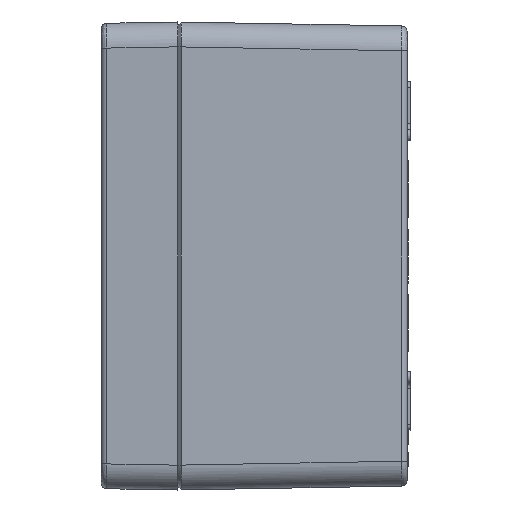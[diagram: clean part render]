
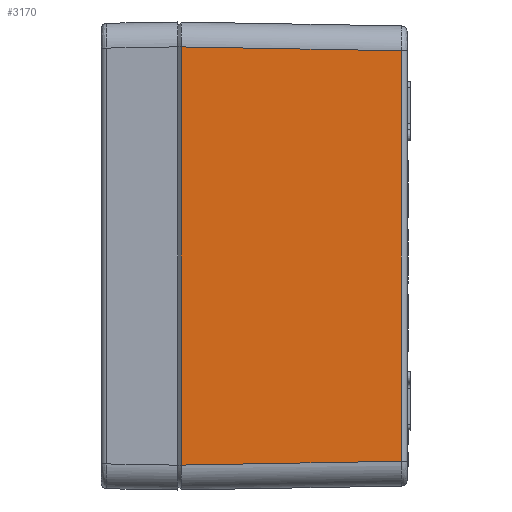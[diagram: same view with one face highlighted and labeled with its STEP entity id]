
A CAD part, left-side view. The second image highlights one B-rep face of the part: STEP entity #3170.
In plain terms, the highlighted planar face has unit normal (-1, -0.018, 0).
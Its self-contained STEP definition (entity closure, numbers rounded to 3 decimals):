
#475 = DIRECTION ( 'NONE',  ( 0.017, -1., 0.017 ) ) ;
#1005 = CARTESIAN_POINT ( 'NONE',  ( -179.983, -1., 54.684 ) ) ;
#2537 = CARTESIAN_POINT ( 'NONE',  ( -180., 0., -61.2 ) ) ;
#2908 = EDGE_LOOP ( 'NONE', ( #19646, #18909, #22414, #7575 ) ) ;
#3170 = ADVANCED_FACE ( 'NONE', ( #27324 ), #33567, .T. ) ;
#3557 = EDGE_CURVE ( 'NONE', #36399, #20370, #18889, .T. ) ;
#4932 = CARTESIAN_POINT ( 'NONE',  ( -179.983, -1., -54.684 ) ) ;
#4972 = VERTEX_POINT ( 'NONE', #28236 ) ;
#5062 = CARTESIAN_POINT ( 'NONE',  ( -178.978, -58.526, 55.294 ) ) ;
#6378 = EDGE_CURVE ( 'NONE', #4972, #20370, #14474, .T. ) ;
#6973 = VECTOR ( 'NONE', #7657, 1000. ) ;
#7575 = ORIENTED_EDGE ( 'NONE', *, *, #6378, .F. ) ;
#7657 = DIRECTION ( 'NONE',  ( 0., 0., -1. ) ) ;
#10211 = LINE ( 'NONE', #22612, #21734 ) ;
#10671 = VERTEX_POINT ( 'NONE', #1005 ) ;
#10679 = EDGE_CURVE ( 'NONE', #4972, #10671, #10211, .T. ) ;
#13080 = VECTOR ( 'NONE', #475, 1000. ) ;
#14474 = LINE ( 'NONE', #5062, #6973 ) ;
#15076 = DIRECTION ( 'NONE',  ( 0., 0., -1. ) ) ;
#18184 = AXIS2_PLACEMENT_3D ( 'NONE', #2537, #20942, #24143 ) ;
#18889 = LINE ( 'NONE', #24888, #13080 ) ;
#18909 = ORIENTED_EDGE ( 'NONE', *, *, #26219, .T. ) ;
#19646 = ORIENTED_EDGE ( 'NONE', *, *, #10679, .T. ) ;
#20370 = VERTEX_POINT ( 'NONE', #21235 ) ;
#20942 = DIRECTION ( 'NONE',  ( -1., -0.017, 0. ) ) ;
#21075 = LINE ( 'NONE', #36707, #36474 ) ;
#21235 = CARTESIAN_POINT ( 'NONE',  ( -178.978, -58.526, -53.679 ) ) ;
#21734 = VECTOR ( 'NONE', #22420, 1000. ) ;
#22414 = ORIENTED_EDGE ( 'NONE', *, *, #3557, .T. ) ;
#22420 = DIRECTION ( 'NONE',  ( -0.017, 1., 0.017 ) ) ;
#22612 = CARTESIAN_POINT ( 'NONE',  ( -178.978, -58.526, 53.679 ) ) ;
#24143 = DIRECTION ( 'NONE',  ( 0.017, -1., 0. ) ) ;
#24888 = CARTESIAN_POINT ( 'NONE',  ( -179.983, -1., -54.684 ) ) ;
#26219 = EDGE_CURVE ( 'NONE', #10671, #36399, #21075, .T. ) ;
#27324 = FACE_OUTER_BOUND ( 'NONE', #2908, .T. ) ;
#28236 = CARTESIAN_POINT ( 'NONE',  ( -178.978, -58.526, 53.679 ) ) ;
#33567 = PLANE ( 'NONE',  #18184 ) ;
#36399 = VERTEX_POINT ( 'NONE', #4932 ) ;
#36474 = VECTOR ( 'NONE', #15076, 1000. ) ;
#36707 = CARTESIAN_POINT ( 'NONE',  ( -179.983, -1., -61.2 ) ) ;
